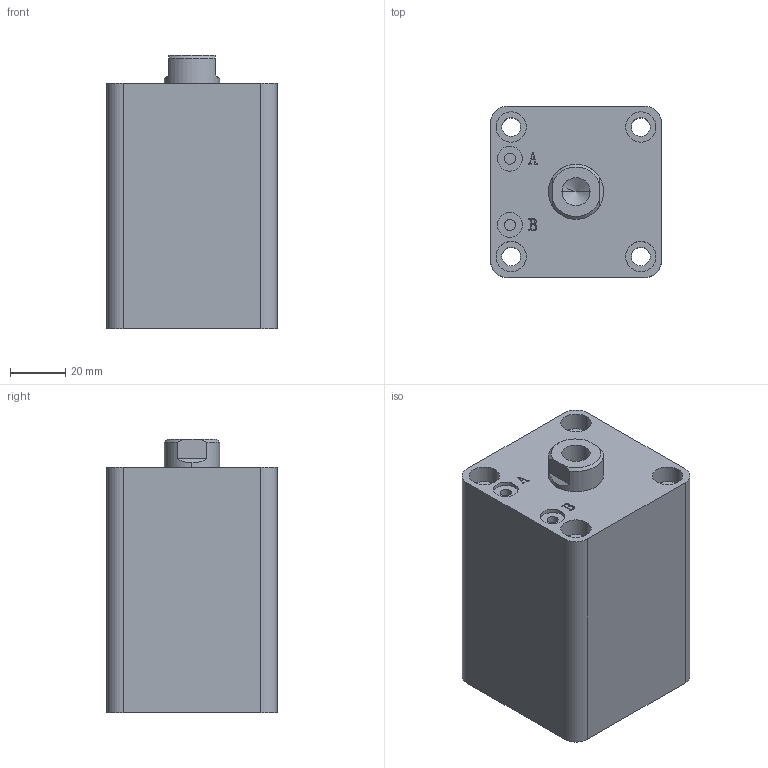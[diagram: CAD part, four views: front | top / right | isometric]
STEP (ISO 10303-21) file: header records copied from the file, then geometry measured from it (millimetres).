
FILE_DESCRIPTION (( 'STEP AP203' ), '1' );
FILE_NAME ('HTB-SDMA32-35N.STEP', '2019-10-07T11:40:03', ( '微软用户' ), ( '微软中国' ), 'SwSTEP 2.0', 'SolidWorks 2012', '' );
FILE_SCHEMA (( 'CONFIG_CONTROL_DESIGN' ));
Length unit declared in the file: millimetre
Products named in the file (3): HTB-SDMA32-35N; HTB-SDMA32-35N活塞杆; HTB-SDMA32-35掛极
Assembly tree (2 placements, depth 2):
  HTB-SDMA32-35N
    HTB-SDMA32-35掛极
    HTB-SDMA32-35N活塞杆
Bounding box: 62 x 62 x 99 mm (x, y, z)
Volume: 307240.4 mm3; surface area: 53469.5 mm2
Topology: 2 solids, 2 shells, 137 faces, 331 edges, 217 vertices
Faces by surface type: plane 65, cylinder 46, bspline 16, torus 6, cone 4
Entity records: 5070 total; most frequent: CARTESIAN_POINT 1576, ORIENTED_EDGE 658, DIRECTION 647, EDGE_CURVE 329, AXIS2_PLACEMENT_3D 232, VERTEX_POINT 217, VECTOR 183, LINE 183
